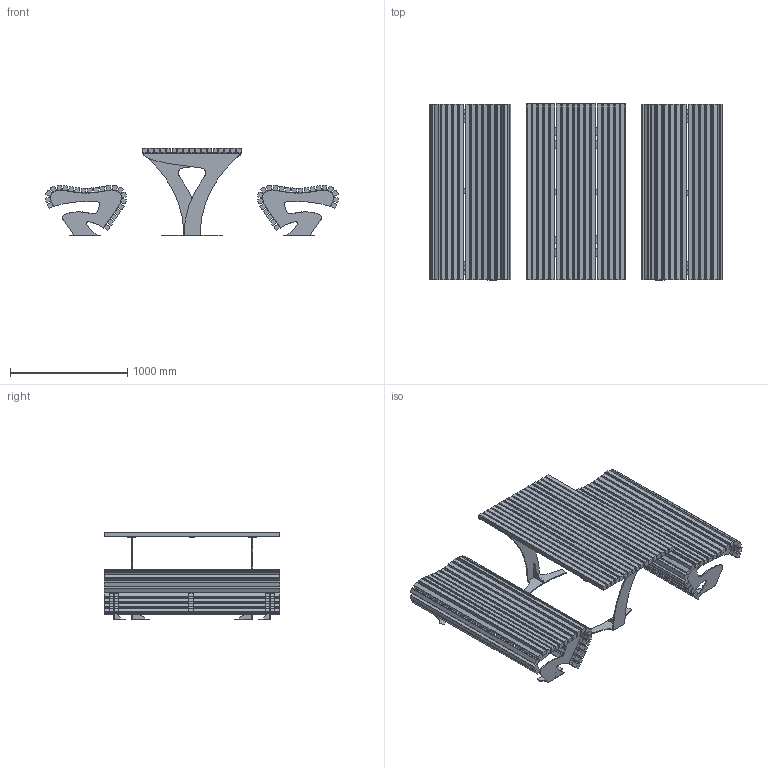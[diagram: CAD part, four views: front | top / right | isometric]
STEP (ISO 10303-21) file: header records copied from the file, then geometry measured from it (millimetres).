
FILE_DESCRIPTION(/* description */ (''),/* implementation_level */ '2;1');
FILE_NAME(/* name */ 'TWA101.01 SIMPLE.step',/* time_stamp */ '2023-08-09T13:52:14+02:00',/* author */ (''),/* organization */ (''),/* preprocessor_version */ 'ST-DEVELOPER v20',/* originating_system */ 'Autodesk Translation Framework v12.9.0.99',/* authorisation */ '');
FILE_SCHEMA (('AUTOMOTIVE_DESIGN { 1 0 10303 214 3 1 1 }'));
Length unit declared in the file: millimetre
Products named in the file (14): TWA101.01; TWA001.00; TWA001.00.01; TWA001.00.01.01; TWA001.00.01.02; TWA001.00.01.03; TWA001.00.01.04; TWA001.00.02.01; TWA001.00.03.01_Domylna<Obrobiona>; LWA067.00; L006.07-00.002_Domylna<Obrobiona>; L006.07-01.000_Domylna<Obrobiona>; LustroL006.05-01.000_Domylna<Obrobiona>; L006.07-00.001_Domylna<Obrobiona>
Assembly tree (52 placements, depth 4):
  TWA101.01
    TWA001.00
      TWA001.00.01  x2
        TWA001.00.01.01
        TWA001.00.01.02
        TWA001.00.01.03
        TWA001.00.01.04
      TWA001.00.03.01_Domylna<Obrobiona>  x17
      TWA001.00.02.01
    LWA067.00  x2
      L006.07-00.001_Domylna<Obrobiona>
      L006.07-00.002_Domylna<Obrobiona>
      L006.07-01.000_Domylna<Obrobiona>
      LustroL006.05-01.000_Domylna<Obrobiona>
Bounding box: 2504.23 x 1500 x 750 mm (x, y, z)
Volume: 154167192 mm3; surface area: 17555950.5 mm2
Topology: 88 solids, 88 shells, 1258 faces, 2934 edges, 1852 vertices
Faces by surface type: plane 950, cylinder 266, bspline 42
Entity records: 11031 total; most frequent: CARTESIAN_POINT 2063, DIRECTION 1886, ORIENTED_EDGE 1680, EDGE_CURVE 840, AXIS2_PLACEMENT_3D 679, LINE 528, VECTOR 528, VERTEX_POINT 508
